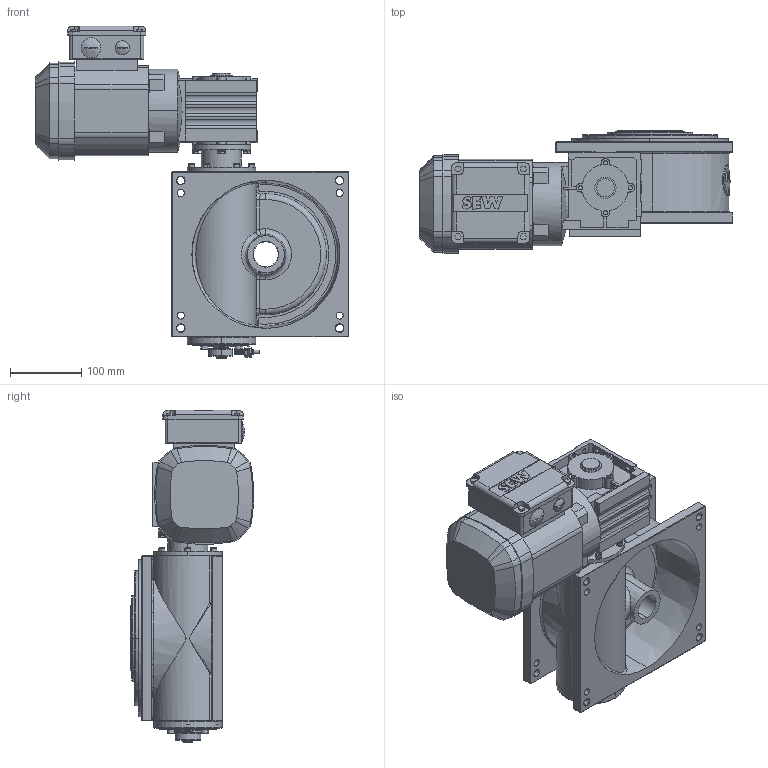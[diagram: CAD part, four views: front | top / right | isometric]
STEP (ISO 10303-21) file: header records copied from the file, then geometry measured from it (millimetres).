
FILE_DESCRIPTION (( 'STEP AP214' ), '1' );
FILE_NAME ('M190_SEW_WA20DRS71S4_D3.STEP', '2021-01-25T15:06:41', ( '' ), ( '' ), 'SwSTEP 2.0', 'SolidWorks 2020', '' );
FILE_SCHEMA (( 'AUTOMOTIVE_DESIGN' ));
Length unit declared in the file: millimetre
Products named in the file (1): M190_SEW_WA20DRS71S4_D3
Bounding box: 439.5 x 172.74 x 466.05 mm (x, y, z)
Surface area: 589891.3 mm2 (no closed solid volume)
Topology: 0 solids, 59 shells, 1232 faces, 3696 edges, 2439 vertices
Faces by surface type: plane 503, cylinder 419, cone 144, bspline 91, torus 63, sphere 12
Entity records: 64188 total; most frequent: CARTESIAN_POINT 18121, DIRECTION 6776, ORIENTED_EDGE 6387, EDGE_CURVE 3663, VERTEX_POINT 2439, AXIS2_PLACEMENT_3D 2422, VECTOR 1932, LINE 1932
